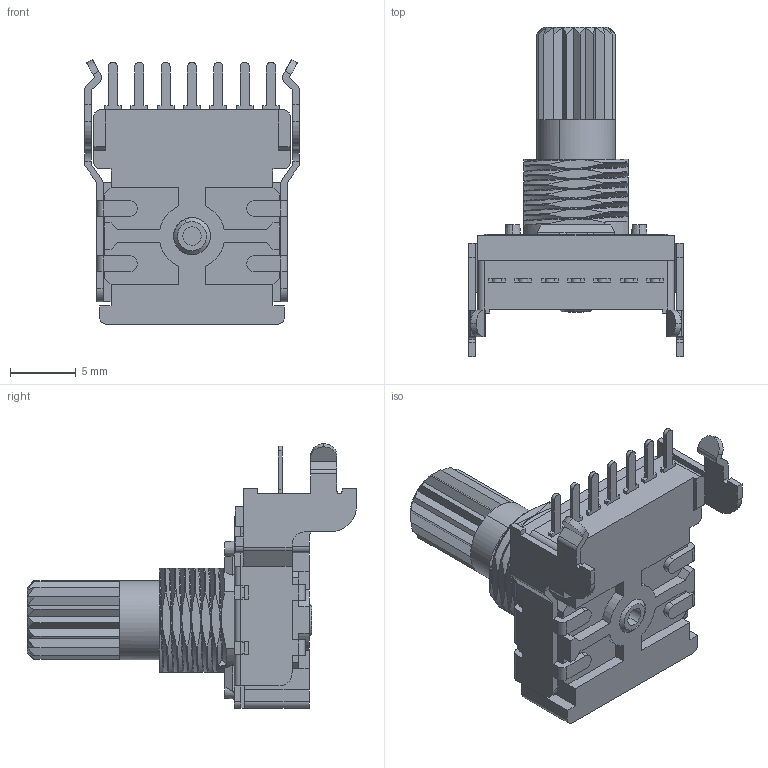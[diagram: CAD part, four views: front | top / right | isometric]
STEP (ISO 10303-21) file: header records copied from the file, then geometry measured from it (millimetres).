
FILE_DESCRIPTION (( 'STEP AP203' ), '1' );
FILE_NAME ('P140KV1-Y15.STEP', '2026-09-14T19:59:40', ( '' ), ( '' ), 'SwSTEP 2.0', 'SolidWorks 2026', '' );
FILE_SCHEMA (( 'CONFIG_CONTROL_DESIGN' ));
Length unit declared in the file: millimetre
Products named in the file (8): Housing; spring_plate; bushing; H-terminal; 1-Y15; KV_housing; KV1 bracket; P140KV1-Y15
Assembly tree (13 placements, depth 3):
  P140KV1-Y15
    KV_housing
      Housing
      H-terminal  x7
    1-Y15
    spring_plate
    bushing
    KV1 bracket
Bounding box: 16.3 x 25 x 20.1 mm (x, y, z)
Volume: 1543.7 mm3; surface area: 3088.5 mm2
Topology: 12 solids, 12 shells, 768 faces, 2073 edges, 1330 vertices
Faces by surface type: plane 493, cylinder 179, bspline 61, cone 33, torus 2
Entity records: 36567 total; most frequent: CARTESIAN_POINT 18329, ORIENTED_EDGE 3858, DIRECTION 3266, EDGE_CURVE 1929, VERTEX_POINT 1234, LINE 1228, VECTOR 1228, AXIS2_PLACEMENT_3D 1019
